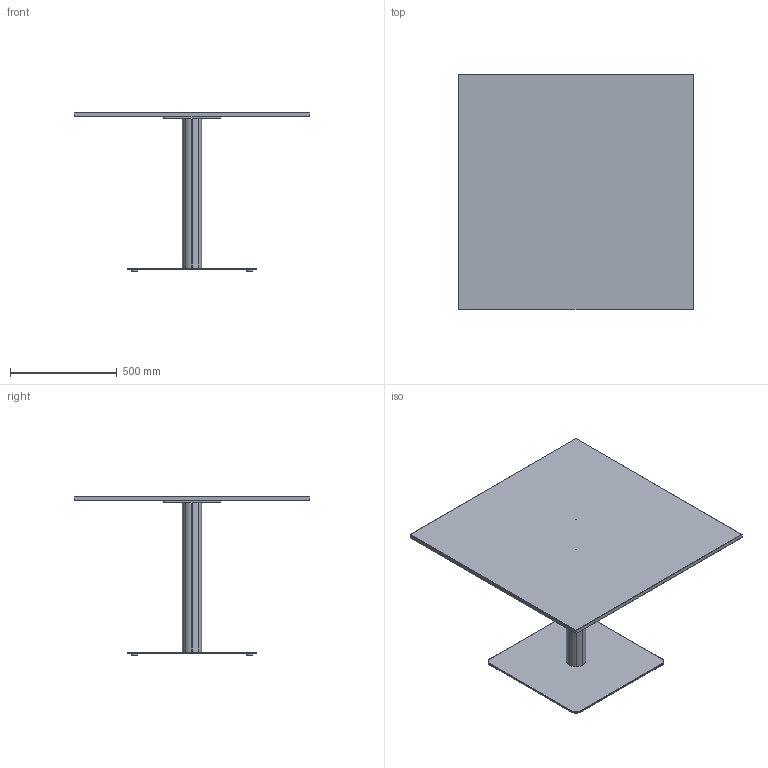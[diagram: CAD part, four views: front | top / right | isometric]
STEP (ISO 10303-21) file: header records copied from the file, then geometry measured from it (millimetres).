
FILE_DESCRIPTION( ('This file contains a STEP AP42 implementation' ,'as created by ZW3D STEP Interface translator.') ,'2;1' );
FILE_NAME( 'Fut - B_Carré - F4 - M1 - 1100 x 1100 x 750.stp' ,'24 911.163344', (''), ('ZWCAD Software Co.'), 'Version 1.0', 'ZW3D to STEP translator', '' );
FILE_SCHEMA(('AUTOMOTIVE_DESIGN { 1 0 10303 214 1 1 1 1 }'));
Length unit declared in the file: millimetre
Products named in the file (15): 0; PIED BISTROT PARAMETRIQUE_; CROIX ACIER 370 V.02_; CRX-X370-02_; SOCLE ACIER L 600x600 V.02_; SCL-R600-02_; PLA-R30A-01_; PLA-R30A-01; COLONNE ACIER Ø48.5 V.02_; TUB-D048-02_; PLA-R48A-01_; COLONNE BOIS PARAMETIQUE_; WUERTH 0276063020 Euro-screw 6.3x2 Verzinkt_; PLATEAU BISTROT PARAMETRIQUE_; insert_m6_13_
Assembly tree (23 placements, depth 3):
  0
  PIED BISTROT PARAMETRIQUE_
    CROIX ACIER 370 V.02_
      CRX-X370-02_
    SOCLE ACIER L 600x600 V.02_
      SCL-R600-02_
      PLA-R30A-01_
      PLA-R30A-01  x3
    COLONNE ACIER Ø48.5 V.02_
      TUB-D048-02_
      PLA-R48A-01_  x2
    COLONNE BOIS PARAMETIQUE_
    WUERTH 0276063020 Euro-screw 6.3x2 Verzinkt_
    PLATEAU BISTROT PARAMETRIQUE_
      insert_m6_13_  x8
Bounding box: 1100 x 1100 x 744 mm (x, y, z)
Volume: 30575585.5 mm3; surface area: 4027576.8 mm2
Topology: 23 solids, 23 shells, 561 faces, 1358 edges, 846 vertices
Faces by surface type: plane 282, bspline 129, cylinder 104, cone 45, torus 1
Full cylindrical faces by diameter (mm): 4.88 x1, 6 x8, 6.3 x1, 8 x45, 12 x2, 14 x2, 30 x4, 44.5 x3, 48.5 x1
Entity records: 13039 total; most frequent: CARTESIAN_POINT 3561, ORIENTED_EDGE 1722, DIRECTION 1600, EDGE_CURVE 861, VECTOR 558, LINE 558, VERTEX_POINT 548, AXIS2_PLACEMENT_3D 521
